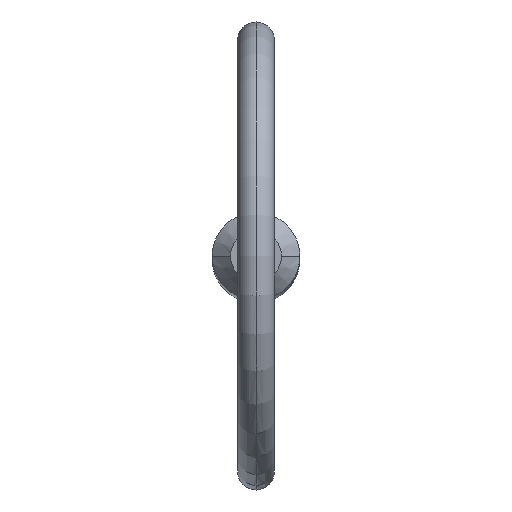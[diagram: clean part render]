
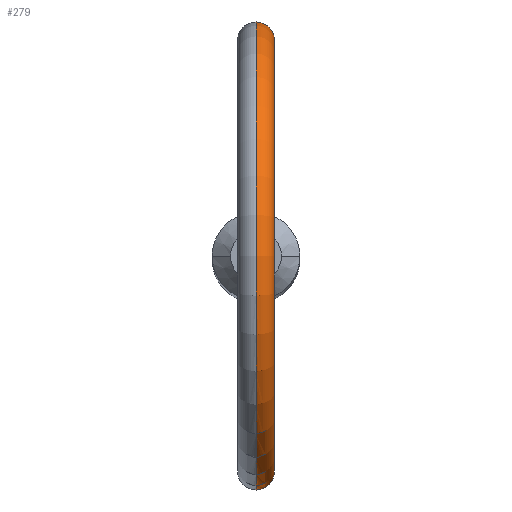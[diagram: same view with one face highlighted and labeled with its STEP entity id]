
A CAD part, top view. The second image highlights one B-rep face of the part: STEP entity #279.
In plain terms, the highlighted toroidal (fillet/blend) face has major radius 11.7 mm and minor radius 1 mm.
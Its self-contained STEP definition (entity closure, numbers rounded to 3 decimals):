
#8 = CARTESIAN_POINT ( 'NONE',  ( 0.513, 2.327, 84.149 ) ) ;
#11 = DIRECTION ( 'NONE',  ( 0., 0., -1. ) ) ;
#14 = CARTESIAN_POINT ( 'NONE',  ( 0.884, 2.21, 84.517 ) ) ;
#27 = CARTESIAN_POINT ( 'NONE',  ( 0.133, -2.38, 84.025 ) ) ;
#40 = CARTESIAN_POINT ( 'NONE',  ( 0.864, 2.218, 85.541 ) ) ;
#41 = ORIENTED_EDGE ( 'NONE', *, *, #99, .T. ) ;
#43 = DIRECTION ( 'NONE',  ( 0., 0., -1. ) ) ;
#44 = CARTESIAN_POINT ( 'NONE',  ( 0.509, 2.328, 85.924 ) ) ;
#48 = TOROIDAL_SURFACE ( 'NONE', #219, 11.7, 1. ) ;
#51 = DIRECTION ( 'NONE',  ( 0., 0., -1. ) ) ;
#54 = CARTESIAN_POINT ( 'NONE',  ( 0., 0., 96.5 ) ) ;
#59 = EDGE_CURVE ( 'NONE', #365, #152, #472, .T. ) ;
#74 = CARTESIAN_POINT ( 'NONE',  ( 0., 2.38, 86.068 ) ) ;
#76 = AXIS2_PLACEMENT_3D ( 'NONE', #162, #155, #43 ) ;
#77 = CARTESIAN_POINT ( 'NONE',  ( 0.267, 2.368, 84.05 ) ) ;
#78 = CARTESIAN_POINT ( 'NONE',  ( 1.003, 2.158, 84.897 ) ) ;
#79 = EDGE_CURVE ( 'NONE', #236, #365, #241, .T. ) ;
#80 = CARTESIAN_POINT ( 'NONE',  ( 0.625, 2.299, 84.221 ) ) ;
#91 = CARTESIAN_POINT ( 'NONE',  ( 0.966, -2.176, 85.297 ) ) ;
#96 = CARTESIAN_POINT ( 'NONE',  ( 0.981, -2.169, 84.764 ) ) ;
#99 = EDGE_CURVE ( 'NONE', #236, #230, #393, .T. ) ;
#112 = CARTESIAN_POINT ( 'NONE',  ( 0.981, 2.169, 84.762 ) ) ;
#115 = DIRECTION ( 'NONE',  ( 1., 0., 0. ) ) ;
#117 = CARTESIAN_POINT ( 'NONE',  ( 0.793, 2.246, 85.653 ) ) ;
#129 = CARTESIAN_POINT ( 'NONE',  ( 0.625, -2.299, 84.221 ) ) ;
#131 = FACE_OUTER_BOUND ( 'NONE', #295, .T. ) ;
#146 = ORIENTED_EDGE ( 'NONE', *, *, #272, .F. ) ;
#152 = VERTEX_POINT ( 'NONE', #275 ) ;
#155 = DIRECTION ( 'NONE',  ( 1., 0., 0. ) ) ;
#162 = CARTESIAN_POINT ( 'NONE',  ( 0., 0., 96.5 ) ) ;
#169 = B_SPLINE_CURVE_WITH_KNOTS ( 'NONE', 3,
 ( #316, #384, #246, #462, #431, #465, #395, #91, #290, #355, #96, #287, #249, #129, #432, #467, #27, #289 ),
 .UNSPECIFIED., .F., .F.,
 ( 4, 2, 2, 2, 2, 2, 2, 2, 4 ),
 ( 0.003, 0.003, 0.003, 0.004, 0.004, 0.005, 0.005, 0.005, 0.006 ),
 .UNSPECIFIED. ) ;
#219 = AXIS2_PLACEMENT_3D ( 'NONE', #54, #473, #51 ) ;
#230 = VERTEX_POINT ( 'NONE', #239 ) ;
#232 = CARTESIAN_POINT ( 'NONE',  ( 0., 0., 96.5 ) ) ;
#233 = CARTESIAN_POINT ( 'NONE',  ( 0.133, 2.38, 84.025 ) ) ;
#236 = VERTEX_POINT ( 'NONE', #281 ) ;
#239 = CARTESIAN_POINT ( 'NONE',  ( 0., -2.38, 84.025 ) ) ;
#241 = B_SPLINE_CURVE_WITH_KNOTS ( 'NONE', 3,
 ( #377, #233, #77, #8, #80, #445, #14, #112, #78, #411, #346, #40, #117, #271, #44, #277, #302, #74 ),
 .UNSPECIFIED., .F., .F.,
 ( 4, 2, 2, 2, 2, 2, 2, 2, 4 ),
 ( 0.001, 0.001, 0.001, 0.002, 0.002, 0.003, 0.003, 0.003, 0.004 ),
 .UNSPECIFIED. ) ;
#246 = CARTESIAN_POINT ( 'NONE',  ( 0.268, -2.368, 86.037 ) ) ;
#249 = CARTESIAN_POINT ( 'NONE',  ( 0.811, -2.24, 84.406 ) ) ;
#271 = CARTESIAN_POINT ( 'NONE',  ( 0.614, 2.301, 85.845 ) ) ;
#272 = EDGE_CURVE ( 'NONE', #152, #230, #169, .T. ) ;
#275 = CARTESIAN_POINT ( 'NONE',  ( 0., -2.38, 86.068 ) ) ;
#277 = CARTESIAN_POINT ( 'NONE',  ( 0.267, 2.368, 86.037 ) ) ;
#279 = ADVANCED_FACE ( 'NONE', ( #131 ), #48, .T. ) ;
#281 = CARTESIAN_POINT ( 'NONE',  ( 0., 2.38, 84.025 ) ) ;
#287 = CARTESIAN_POINT ( 'NONE',  ( 0.885, -2.21, 84.517 ) ) ;
#289 = CARTESIAN_POINT ( 'NONE',  ( 0., -2.38, 84.025 ) ) ;
#290 = CARTESIAN_POINT ( 'NONE',  ( 0.996, -2.162, 85.164 ) ) ;
#295 = EDGE_LOOP ( 'NONE', ( #453, #41, #146, #327 ) ) ;
#302 = CARTESIAN_POINT ( 'NONE',  ( 0.134, 2.38, 86.068 ) ) ;
#316 = CARTESIAN_POINT ( 'NONE',  ( 0., -2.38, 86.068 ) ) ;
#321 = CARTESIAN_POINT ( 'NONE',  ( 0., 2.38, 86.068 ) ) ;
#327 = ORIENTED_EDGE ( 'NONE', *, *, #59, .F. ) ;
#346 = CARTESIAN_POINT ( 'NONE',  ( 0.966, 2.176, 85.297 ) ) ;
#355 = CARTESIAN_POINT ( 'NONE',  ( 1.003, -2.158, 84.899 ) ) ;
#365 = VERTEX_POINT ( 'NONE', #321 ) ;
#377 = CARTESIAN_POINT ( 'NONE',  ( 0., 2.38, 84.025 ) ) ;
#384 = CARTESIAN_POINT ( 'NONE',  ( 0.134, -2.38, 86.068 ) ) ;
#393 = CIRCLE ( 'NONE', #418, 12.7 ) ;
#395 = CARTESIAN_POINT ( 'NONE',  ( 0.865, -2.218, 85.54 ) ) ;
#411 = CARTESIAN_POINT ( 'NONE',  ( 0.996, 2.162, 85.164 ) ) ;
#418 = AXIS2_PLACEMENT_3D ( 'NONE', #232, #115, #11 ) ;
#431 = CARTESIAN_POINT ( 'NONE',  ( 0.615, -2.301, 85.844 ) ) ;
#432 = CARTESIAN_POINT ( 'NONE',  ( 0.513, -2.327, 84.148 ) ) ;
#445 = CARTESIAN_POINT ( 'NONE',  ( 0.811, 2.24, 84.406 ) ) ;
#453 = ORIENTED_EDGE ( 'NONE', *, *, #79, .F. ) ;
#462 = CARTESIAN_POINT ( 'NONE',  ( 0.508, -2.328, 85.924 ) ) ;
#465 = CARTESIAN_POINT ( 'NONE',  ( 0.793, -2.246, 85.652 ) ) ;
#467 = CARTESIAN_POINT ( 'NONE',  ( 0.268, -2.368, 84.051 ) ) ;
#472 = CIRCLE ( 'NONE', #76, 10.7 ) ;
#473 = DIRECTION ( 'NONE',  ( 1., 0., 0. ) ) ;
